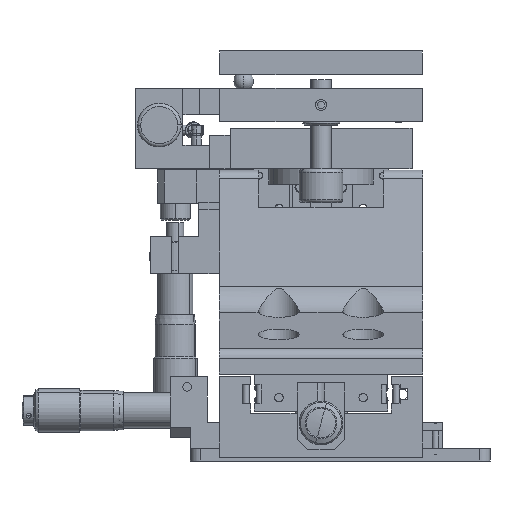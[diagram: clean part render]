
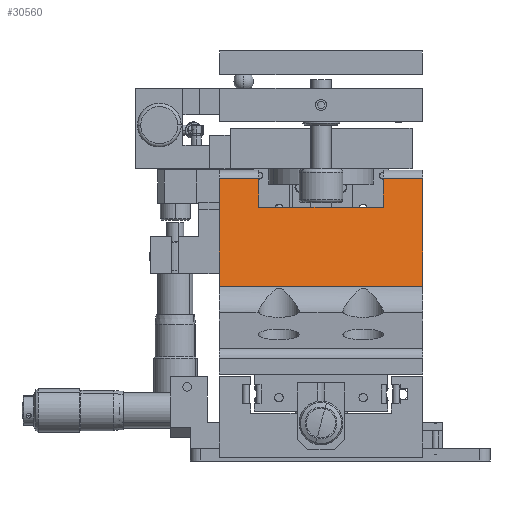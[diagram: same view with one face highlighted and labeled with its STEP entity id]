
A CAD part, front view. The second image highlights one B-rep face of the part: STEP entity #30560.
In plain terms, the highlighted planar face has unit normal (0, -0.985, 0.174).
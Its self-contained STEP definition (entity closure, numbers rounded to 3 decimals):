
#778 = VERTEX_POINT ( 'NONE', #26505 ) ;
#780 = VERTEX_POINT ( 'NONE', #26512 ) ;
#817 = VERTEX_POINT ( 'NONE', #26594 ) ;
#1493 = VERTEX_POINT ( 'NONE', #42602 ) ;
#1522 = VERTEX_POINT ( 'NONE', #43457 ) ;
#1537 = VERTEX_POINT ( 'NONE', #43444 ) ;
#1624 = VERTEX_POINT ( 'NONE', #43539 ) ;
#2163 = ORIENTED_EDGE ( 'NONE', *, *, #30345, .T. ) ;
#2164 = ORIENTED_EDGE ( 'NONE', *, *, #30350, .T. ) ;
#2165 = ORIENTED_EDGE ( 'NONE', *, *, #24316, .T. ) ;
#2166 = ORIENTED_EDGE ( 'NONE', *, *, #24342, .T. ) ;
#2167 = ORIENTED_EDGE ( 'NONE', *, *, #24323, .T. ) ;
#2168 = ORIENTED_EDGE ( 'NONE', *, *, #24274, .T. ) ;
#2169 = ORIENTED_EDGE ( 'NONE', *, *, #24281, .T. ) ;
#2170 = ORIENTED_EDGE ( 'NONE', *, *, #30225, .F. ) ;
#9938 = EDGE_LOOP ( 'NONE', ( #2163, #2164, #2165, #2166, #2167, #2168, #2169, #2170 ) ) ;
#10545 = CARTESIAN_POINT ( 'NONE',  ( 24.554, 13.399, 51.889 ) ) ;
#10550 = CARTESIAN_POINT ( 'NONE',  ( -35.946, 19.467, 86.3 ) ) ;
#10551 = DIRECTION ( 'NONE',  ( 0., -0.174, -0.985 ) ) ;
#10555 = DIRECTION ( 'NONE',  ( 1., 0., 0. ) ) ;
#10574 = DIRECTION ( 'NONE',  ( -1., 0., 0. ) ) ;
#10625 = CARTESIAN_POINT ( 'NONE',  ( 24.554, 17.527, 75.3 ) ) ;
#10626 = DIRECTION ( 'NONE',  ( -1., 0., 0. ) ) ;
#10627 = CARTESIAN_POINT ( 'NONE',  ( 24.554, 19.03, 83.821 ) ) ;
#10647 = CARTESIAN_POINT ( 'NONE',  ( -24.196, 19.467, 86.3 ) ) ;
#10648 = DIRECTION ( 'NONE',  ( 0., 0.174, 0.985 ) ) ;
#10895 = CARTESIAN_POINT ( 'NONE',  ( 24.554, 13.399, 51.889 ) ) ;
#12963 = LINE ( 'NONE', #10550, #12966 ) ;
#12965 = LINE ( 'NONE', #10545, #12972 ) ;
#12966 = VECTOR ( 'NONE', #10551, 1000. ) ;
#12972 = VECTOR ( 'NONE', #10555, 1000. ) ;
#12981 = LINE ( 'NONE', #10627, #12991 ) ;
#12983 = LINE ( 'NONE', #10625, #12988 ) ;
#12988 = VECTOR ( 'NONE', #10626, 1000. ) ;
#12991 = VECTOR ( 'NONE', #10574, 1000. ) ;
#12998 = LINE ( 'NONE', #10647, #13001 ) ;
#13001 = VECTOR ( 'NONE', #10648, 1000. ) ;
#13225 = LINE ( 'NONE', #37983, #13228 ) ;
#13228 = VECTOR ( 'NONE', #37984, 1000. ) ;
#17790 = LINE ( 'NONE', #38271, #17793 ) ;
#17793 = VECTOR ( 'NONE', #38272, 1000. ) ;
#17796 = LINE ( 'NONE', #38288, #17799 ) ;
#17799 = VECTOR ( 'NONE', #38289, 1000. ) ;
#18172 = FACE_OUTER_BOUND ( 'NONE', #9938, .T. ) ;
#18970 = AXIS2_PLACEMENT_3D ( 'NONE', #36352, #36357, #36358 ) ;
#24274 = EDGE_CURVE ( 'NONE', #780, #1537, #12963, .T. ) ;
#24281 = EDGE_CURVE ( 'NONE', #1537, #26324, #12965, .T. ) ;
#24316 = EDGE_CURVE ( 'NONE', #817, #1493, #12983, .T. ) ;
#24323 = EDGE_CURVE ( 'NONE', #778, #780, #12981, .T. ) ;
#24342 = EDGE_CURVE ( 'NONE', #1493, #778, #12998, .T. ) ;
#26324 = VERTEX_POINT ( 'NONE', #10895 ) ;
#26505 = CARTESIAN_POINT ( 'NONE',  ( -24.196, 19.03, 83.821 ) ) ;
#26512 = CARTESIAN_POINT ( 'NONE',  ( -35.946, 19.03, 83.821 ) ) ;
#26594 = CARTESIAN_POINT ( 'NONE',  ( 12.804, 17.527, 75.3 ) ) ;
#30225 = EDGE_CURVE ( 'NONE', #1522, #26324, #13225, .T. ) ;
#30345 = EDGE_CURVE ( 'NONE', #1522, #1624, #17790, .T. ) ;
#30350 = EDGE_CURVE ( 'NONE', #1624, #817, #17796, .T. ) ;
#30560 = ADVANCED_FACE ( 'NONE', ( #18172 ), #36354, .F. ) ;
#36352 = CARTESIAN_POINT ( 'NONE',  ( 24.554, 19.467, 86.3 ) ) ;
#36354 = PLANE ( 'NONE',  #18970 ) ;
#36357 = DIRECTION ( 'NONE',  ( 0., 0.985, -0.174 ) ) ;
#36358 = DIRECTION ( 'NONE',  ( 0., 0.174, 0.985 ) ) ;
#37983 = CARTESIAN_POINT ( 'NONE',  ( 24.554, 19.467, 86.3 ) ) ;
#37984 = DIRECTION ( 'NONE',  ( 0., -0.174, -0.985 ) ) ;
#38271 = CARTESIAN_POINT ( 'NONE',  ( 24.554, 19.03, 83.821 ) ) ;
#38272 = DIRECTION ( 'NONE',  ( -1., 0., 0. ) ) ;
#38288 = CARTESIAN_POINT ( 'NONE',  ( 12.804, 19.467, 86.3 ) ) ;
#38289 = DIRECTION ( 'NONE',  ( 0., -0.174, -0.985 ) ) ;
#42602 = CARTESIAN_POINT ( 'NONE',  ( -24.196, 17.527, 75.3 ) ) ;
#43444 = CARTESIAN_POINT ( 'NONE',  ( -35.946, 13.399, 51.889 ) ) ;
#43457 = CARTESIAN_POINT ( 'NONE',  ( 24.554, 19.03, 83.821 ) ) ;
#43539 = CARTESIAN_POINT ( 'NONE',  ( 12.804, 19.03, 83.821 ) ) ;
